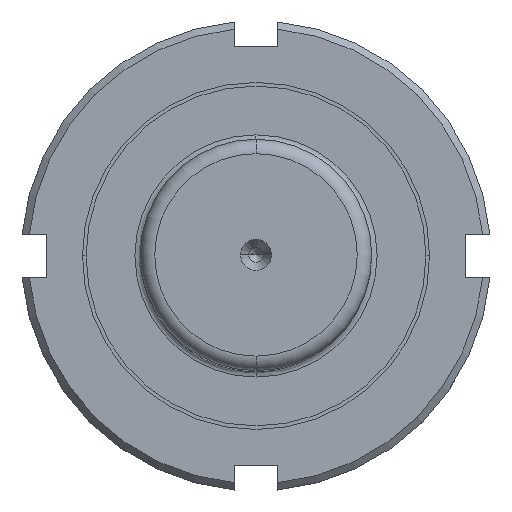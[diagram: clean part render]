
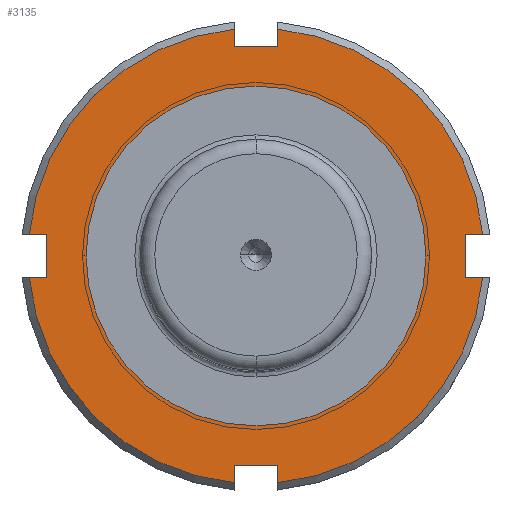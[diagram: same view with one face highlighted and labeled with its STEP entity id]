
A CAD part, top view. The second image highlights one B-rep face of the part: STEP entity #3135.
In plain terms, the highlighted planar face has unit normal (0, 0, 1).
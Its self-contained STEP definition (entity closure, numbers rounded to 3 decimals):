
#2227=CARTESIAN_POINT('',(0.0,23.5,46.0));
#2228=VERTEX_POINT('',#2227);
#2244=CARTESIAN_POINT('',(0.,-23.5,46.0));
#2245=VERTEX_POINT('',#2244);
#2252=CARTESIAN_POINT('',(0.0,0.0,46.0));
#2253=DIRECTION('',(0.0,0.0,-1.0));
#2254=DIRECTION('',(0.0,1.0,0.0));
#2255=AXIS2_PLACEMENT_3D('',#2252,#2253,#2254);
#2256=CIRCLE('',#2255,23.5);
#2257=EDGE_CURVE('',#2228,#2245,#2256,.T.);
#2292=CARTESIAN_POINT('',(-29.0,3.,46.));
#2293=VERTEX_POINT('',#2292);
#2300=CARTESIAN_POINT('',(-31.357,3.,46.));
#2301=VERTEX_POINT('',#2300);
#2302=CARTESIAN_POINT('',(-31.357,3.,46.));
#2303=DIRECTION('',(1.0,0.0,0.0));
#2304=VECTOR('',#2303,2.357);
#2305=LINE('',#2302,#2304);
#2306=EDGE_CURVE('',#2301,#2293,#2305,.T.);
#2362=CARTESIAN_POINT('',(-31.357,-3.,46.0));
#2363=VERTEX_POINT('',#2362);
#2377=CARTESIAN_POINT('',(-29.0,-3.,46.));
#2378=VERTEX_POINT('',#2377);
#2379=CARTESIAN_POINT('',(-29.0,-3.,46.));
#2380=DIRECTION('',(-1.0,0.0,0.0));
#2381=VECTOR('',#2380,2.357);
#2382=LINE('',#2379,#2381);
#2383=EDGE_CURVE('',#2378,#2363,#2382,.T.);
#2414=CARTESIAN_POINT('',(-29.0,3.,46.));
#2415=DIRECTION('',(0.0,-1.0,0.0));
#2416=VECTOR('',#2415,6.0);
#2417=LINE('',#2414,#2416);
#2418=EDGE_CURVE('',#2293,#2378,#2417,.T.);
#2454=CARTESIAN_POINT('',(-3.,-29.0,46.0));
#2455=VERTEX_POINT('',#2454);
#2462=CARTESIAN_POINT('',(-3.,-31.357,46.0));
#2463=VERTEX_POINT('',#2462);
#2464=CARTESIAN_POINT('',(-3.,-31.357,46.0));
#2465=DIRECTION('',(0.0,1.0,0.0));
#2466=VECTOR('',#2465,2.357);
#2467=LINE('',#2464,#2466);
#2468=EDGE_CURVE('',#2463,#2455,#2467,.T.);
#2524=CARTESIAN_POINT('',(3.,-31.357,46.0));
#2525=VERTEX_POINT('',#2524);
#2539=CARTESIAN_POINT('',(3.,-29.0,46.0));
#2540=VERTEX_POINT('',#2539);
#2541=CARTESIAN_POINT('',(3.,-29.0,46.0));
#2542=DIRECTION('',(0.0,-1.0,0.0));
#2543=VECTOR('',#2542,2.357);
#2544=LINE('',#2541,#2543);
#2545=EDGE_CURVE('',#2540,#2525,#2544,.T.);
#2576=CARTESIAN_POINT('',(-3.,-29.0,46.0));
#2577=DIRECTION('',(1.0,0.0,0.0));
#2578=VECTOR('',#2577,6.0);
#2579=LINE('',#2576,#2578);
#2580=EDGE_CURVE('',#2455,#2540,#2579,.T.);
#2616=CARTESIAN_POINT('',(29.0,-3.,46.));
#2617=VERTEX_POINT('',#2616);
#2624=CARTESIAN_POINT('',(31.357,-3.,46.));
#2625=VERTEX_POINT('',#2624);
#2626=CARTESIAN_POINT('',(31.357,-3.,46.));
#2627=DIRECTION('',(-1.0,0.0,0.0));
#2628=VECTOR('',#2627,2.357);
#2629=LINE('',#2626,#2628);
#2630=EDGE_CURVE('',#2625,#2617,#2629,.T.);
#2686=CARTESIAN_POINT('',(31.357,3.,46.0));
#2687=VERTEX_POINT('',#2686);
#2701=CARTESIAN_POINT('',(29.0,3.,46.));
#2702=VERTEX_POINT('',#2701);
#2703=CARTESIAN_POINT('',(29.0,3.,46.));
#2704=DIRECTION('',(1.0,0.0,0.0));
#2705=VECTOR('',#2704,2.357);
#2706=LINE('',#2703,#2705);
#2707=EDGE_CURVE('',#2702,#2687,#2706,.T.);
#2738=CARTESIAN_POINT('',(29.0,-3.,46.));
#2739=DIRECTION('',(0.0,1.0,0.0));
#2740=VECTOR('',#2739,6.0);
#2741=LINE('',#2738,#2740);
#2742=EDGE_CURVE('',#2617,#2702,#2741,.T.);
#2778=CARTESIAN_POINT('',(3.0,29.0,46.0));
#2779=VERTEX_POINT('',#2778);
#2786=CARTESIAN_POINT('',(3.0,31.357,46.0));
#2787=VERTEX_POINT('',#2786);
#2788=CARTESIAN_POINT('',(3.0,31.357,46.0));
#2789=DIRECTION('',(0.0,-1.0,0.0));
#2790=VECTOR('',#2789,2.357);
#2791=LINE('',#2788,#2790);
#2792=EDGE_CURVE('',#2787,#2779,#2791,.T.);
#2848=CARTESIAN_POINT('',(-3.0,31.357,46.0));
#2849=VERTEX_POINT('',#2848);
#2863=CARTESIAN_POINT('',(-3.0,29.0,46.0));
#2864=VERTEX_POINT('',#2863);
#2865=CARTESIAN_POINT('',(-3.0,29.0,46.0));
#2866=DIRECTION('',(0.0,1.0,0.0));
#2867=VECTOR('',#2866,2.357);
#2868=LINE('',#2865,#2867);
#2869=EDGE_CURVE('',#2864,#2849,#2868,.T.);
#2900=CARTESIAN_POINT('',(3.0,29.0,46.0));
#2901=DIRECTION('',(-1.0,0.0,0.0));
#2902=VECTOR('',#2901,6.0);
#2903=LINE('',#2900,#2902);
#2904=EDGE_CURVE('',#2779,#2864,#2903,.T.);
#3078=CARTESIAN_POINT('',(0.0,27.5,46.0));
#3079=DIRECTION('',(0.0,0.0,1.0));
#3080=DIRECTION('',(1.0,0.0,0.0));
#3081=AXIS2_PLACEMENT_3D('',#3078,#3079,#3080);
#3082=PLANE('',#3081);
#3083=ORIENTED_EDGE('',*,*,#2306,.T.);
#3084=ORIENTED_EDGE('',*,*,#2418,.T.);
#3085=ORIENTED_EDGE('',*,*,#2383,.T.);
#3086=CARTESIAN_POINT('',(0.0,0.0,46.0));
#3087=DIRECTION('',(0.0,0.0,-1.0));
#3088=DIRECTION('',(0.0,1.0,0.0));
#3089=AXIS2_PLACEMENT_3D('',#3086,#3087,#3088);
#3090=CIRCLE('',#3089,31.5);
#3091=EDGE_CURVE('',#2463,#2363,#3090,.T.);
#3092=ORIENTED_EDGE('',*,*,#3091,.F.);
#3093=ORIENTED_EDGE('',*,*,#2468,.T.);
#3094=ORIENTED_EDGE('',*,*,#2580,.T.);
#3095=ORIENTED_EDGE('',*,*,#2545,.T.);
#3096=CARTESIAN_POINT('',(0.0,0.0,46.0));
#3097=DIRECTION('',(0.0,0.0,-1.0));
#3098=DIRECTION('',(0.0,1.0,0.0));
#3099=AXIS2_PLACEMENT_3D('',#3096,#3097,#3098);
#3100=CIRCLE('',#3099,31.5);
#3101=EDGE_CURVE('',#2625,#2525,#3100,.T.);
#3102=ORIENTED_EDGE('',*,*,#3101,.F.);
#3103=ORIENTED_EDGE('',*,*,#2630,.T.);
#3104=ORIENTED_EDGE('',*,*,#2742,.T.);
#3105=ORIENTED_EDGE('',*,*,#2707,.T.);
#3106=CARTESIAN_POINT('',(0.0,0.0,46.0));
#3107=DIRECTION('',(0.0,0.0,-1.0));
#3108=DIRECTION('',(0.0,1.0,0.0));
#3109=AXIS2_PLACEMENT_3D('',#3106,#3107,#3108);
#3110=CIRCLE('',#3109,31.5);
#3111=EDGE_CURVE('',#2787,#2687,#3110,.T.);
#3112=ORIENTED_EDGE('',*,*,#3111,.F.);
#3113=ORIENTED_EDGE('',*,*,#2792,.T.);
#3114=ORIENTED_EDGE('',*,*,#2904,.T.);
#3115=ORIENTED_EDGE('',*,*,#2869,.T.);
#3116=CARTESIAN_POINT('',(0.0,0.0,46.0));
#3117=DIRECTION('',(0.0,0.0,-1.0));
#3118=DIRECTION('',(0.0,1.0,0.0));
#3119=AXIS2_PLACEMENT_3D('',#3116,#3117,#3118);
#3120=CIRCLE('',#3119,31.5);
#3121=EDGE_CURVE('',#2301,#2849,#3120,.T.);
#3122=ORIENTED_EDGE('',*,*,#3121,.F.);
#3123=EDGE_LOOP('',(#3083,#3084,#3085,#3092,#3093,#3094,#3095,#3102,#3103,#3104,#3105,#3112,#3113,#3114,#3115,#3122));
#3124=FACE_OUTER_BOUND('',#3123,.T.);
#3125=ORIENTED_EDGE('',*,*,#2257,.T.);
#3126=CARTESIAN_POINT('',(0.0,0.0,46.0));
#3127=DIRECTION('',(0.0,0.0,-1.0));
#3128=DIRECTION('',(0.0,1.0,0.0));
#3129=AXIS2_PLACEMENT_3D('',#3126,#3127,#3128);
#3130=CIRCLE('',#3129,23.5);
#3131=EDGE_CURVE('',#2245,#2228,#3130,.T.);
#3132=ORIENTED_EDGE('',*,*,#3131,.T.);
#3133=EDGE_LOOP('',(#3125,#3132));
#3134=FACE_BOUND('',#3133,.T.);
#3135=ADVANCED_FACE('',(#3124,#3134),#3082,.T.);
